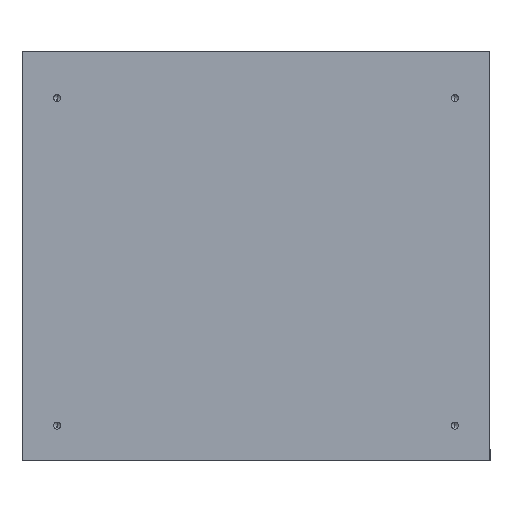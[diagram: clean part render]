
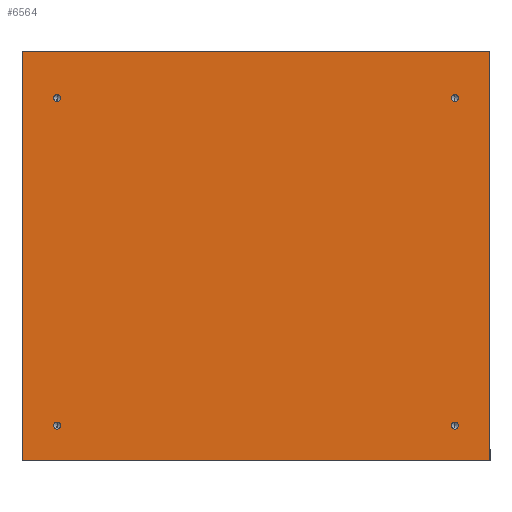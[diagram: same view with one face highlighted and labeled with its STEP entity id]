
A CAD part, front view. The second image highlights one B-rep face of the part: STEP entity #6564.
In plain terms, the highlighted planar face has unit normal (0, -1, 0).
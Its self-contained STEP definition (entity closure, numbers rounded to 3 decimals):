
#11 = ORIENTED_EDGE ( 'NONE', *, *, #5269, .F. ) ;
#37 = VERTEX_POINT ( 'NONE', #2953 ) ;
#155 = CIRCLE ( 'NONE', #3877, 3. ) ;
#158 = DIRECTION ( 'NONE',  ( 0., -1., 0. ) ) ;
#295 = LINE ( 'NONE', #5887, #4758 ) ;
#469 = ORIENTED_EDGE ( 'NONE', *, *, #6476, .F. ) ;
#519 = VERTEX_POINT ( 'NONE', #1395 ) ;
#545 = VERTEX_POINT ( 'NONE', #3409 ) ;
#665 = VERTEX_POINT ( 'NONE', #4602 ) ;
#686 = CIRCLE ( 'NONE', #3126, 3. ) ;
#770 = VERTEX_POINT ( 'NONE', #2228 ) ;
#917 = CARTESIAN_POINT ( 'NONE',  ( -170., 0., 135. ) ) ;
#980 = CARTESIAN_POINT ( 'NONE',  ( -170., 0., 135. ) ) ;
#1037 = CIRCLE ( 'NONE', #1463, 3. ) ;
#1060 = EDGE_CURVE ( 'NONE', #2785, #5393, #155, .T. ) ;
#1064 = CARTESIAN_POINT ( 'NONE',  ( -170., 0., -145. ) ) ;
#1085 = EDGE_CURVE ( 'NONE', #5393, #2785, #4407, .T. ) ;
#1195 = DIRECTION ( 'NONE',  ( 0., 0., 1. ) ) ;
#1384 = DIRECTION ( 'NONE',  ( 0., -1., 0. ) ) ;
#1395 = CARTESIAN_POINT ( 'NONE',  ( 170., 0., -148. ) ) ;
#1463 = AXIS2_PLACEMENT_3D ( 'NONE', #1064, #158, #5734 ) ;
#1525 = DIRECTION ( 'NONE',  ( 0., -1., 0. ) ) ;
#1740 = DIRECTION ( 'NONE',  ( 0., -1., 0. ) ) ;
#1743 = VERTEX_POINT ( 'NONE', #4492 ) ;
#1789 = EDGE_CURVE ( 'NONE', #2121, #770, #2145, .T. ) ;
#1970 = AXIS2_PLACEMENT_3D ( 'NONE', #917, #5035, #4009 ) ;
#2056 = CARTESIAN_POINT ( 'NONE',  ( -170., 0., -145. ) ) ;
#2121 = VERTEX_POINT ( 'NONE', #4960 ) ;
#2135 = ORIENTED_EDGE ( 'NONE', *, *, #5020, .F. ) ;
#2145 = LINE ( 'NONE', #3139, #4734 ) ;
#2222 = ORIENTED_EDGE ( 'NONE', *, *, #1789, .F. ) ;
#2228 = CARTESIAN_POINT ( 'NONE',  ( -200., 0., 175. ) ) ;
#2312 = VERTEX_POINT ( 'NONE', #5024 ) ;
#2550 = DIRECTION ( 'NONE',  ( 0., 0., -1. ) ) ;
#2624 = FACE_BOUND ( 'NONE', #5430, .T. ) ;
#2757 = DIRECTION ( 'NONE',  ( 0., -1., 0. ) ) ;
#2785 = VERTEX_POINT ( 'NONE', #4811 ) ;
#2834 = CIRCLE ( 'NONE', #6549, 3. ) ;
#2868 = EDGE_CURVE ( 'NONE', #545, #2121, #295, .T. ) ;
#2905 = CIRCLE ( 'NONE', #5141, 3. ) ;
#2915 = VECTOR ( 'NONE', #5346, 1000. ) ;
#2927 = VECTOR ( 'NONE', #4428, 1000. ) ;
#2953 = CARTESIAN_POINT ( 'NONE',  ( -170., 0., -142. ) ) ;
#2972 = DIRECTION ( 'NONE',  ( 0., -1., 0. ) ) ;
#3007 = ORIENTED_EDGE ( 'NONE', *, *, #2868, .F. ) ;
#3039 = ORIENTED_EDGE ( 'NONE', *, *, #3961, .F. ) ;
#3058 = DIRECTION ( 'NONE',  ( 0., 0., -1. ) ) ;
#3070 = CARTESIAN_POINT ( 'NONE',  ( -170., 0., 138. ) ) ;
#3126 = AXIS2_PLACEMENT_3D ( 'NONE', #5409, #2757, #5819 ) ;
#3139 = CARTESIAN_POINT ( 'NONE',  ( -200., 0., -175. ) ) ;
#3311 = CARTESIAN_POINT ( 'NONE',  ( 200., 0., -175. ) ) ;
#3362 = ORIENTED_EDGE ( 'NONE', *, *, #1060, .F. ) ;
#3409 = CARTESIAN_POINT ( 'NONE',  ( 200., 0., -175. ) ) ;
#3604 = CARTESIAN_POINT ( 'NONE',  ( 170., 0., 138. ) ) ;
#3649 = ORIENTED_EDGE ( 'NONE', *, *, #6283, .F. ) ;
#3688 = ORIENTED_EDGE ( 'NONE', *, *, #5697, .F. ) ;
#3764 = AXIS2_PLACEMENT_3D ( 'NONE', #2056, #1525, #3058 ) ;
#3877 = AXIS2_PLACEMENT_3D ( 'NONE', #980, #2972, #2550 ) ;
#3912 = VERTEX_POINT ( 'NONE', #4951 ) ;
#3961 = EDGE_CURVE ( 'NONE', #3912, #37, #1037, .T. ) ;
#4009 = DIRECTION ( 'NONE',  ( 0., 0., -1. ) ) ;
#4144 = ORIENTED_EDGE ( 'NONE', *, *, #6006, .F. ) ;
#4178 = FACE_OUTER_BOUND ( 'NONE', #4308, .T. ) ;
#4201 = EDGE_LOOP ( 'NONE', ( #3362, #4711 ) ) ;
#4221 = DIRECTION ( 'NONE',  ( 0., 1., 0. ) ) ;
#4237 = CARTESIAN_POINT ( 'NONE',  ( 170., 0., -145. ) ) ;
#4308 = EDGE_LOOP ( 'NONE', ( #469, #3688, #2222, #3007 ) ) ;
#4407 = CIRCLE ( 'NONE', #1970, 3. ) ;
#4428 = DIRECTION ( 'NONE',  ( 1., 0., 0. ) ) ;
#4492 = CARTESIAN_POINT ( 'NONE',  ( 170., 0., 132. ) ) ;
#4602 = CARTESIAN_POINT ( 'NONE',  ( 170., 0., -142. ) ) ;
#4643 = CARTESIAN_POINT ( 'NONE',  ( 0., 0., 0. ) ) ;
#4651 = AXIS2_PLACEMENT_3D ( 'NONE', #4643, #4221, #1195 ) ;
#4656 = EDGE_LOOP ( 'NONE', ( #4144, #11 ) ) ;
#4711 = ORIENTED_EDGE ( 'NONE', *, *, #1085, .F. ) ;
#4717 = ORIENTED_EDGE ( 'NONE', *, *, #5983, .F. ) ;
#4734 = VECTOR ( 'NONE', #5564, 1000. ) ;
#4745 = FACE_BOUND ( 'NONE', #6079, .T. ) ;
#4758 = VECTOR ( 'NONE', #5832, 1000. ) ;
#4811 = CARTESIAN_POINT ( 'NONE',  ( -170., 0., 132. ) ) ;
#4820 = AXIS2_PLACEMENT_3D ( 'NONE', #4237, #5768, #5841 ) ;
#4921 = VERTEX_POINT ( 'NONE', #3604 ) ;
#4951 = CARTESIAN_POINT ( 'NONE',  ( -170., 0., -148. ) ) ;
#4960 = CARTESIAN_POINT ( 'NONE',  ( -200., 0., -175. ) ) ;
#5020 = EDGE_CURVE ( 'NONE', #1743, #4921, #686, .T. ) ;
#5024 = CARTESIAN_POINT ( 'NONE',  ( 200., 0., 175. ) ) ;
#5035 = DIRECTION ( 'NONE',  ( 0., -1., 0. ) ) ;
#5141 = AXIS2_PLACEMENT_3D ( 'NONE', #5944, #1384, #6037 ) ;
#5142 = PLANE ( 'NONE',  #4651 ) ;
#5227 = DIRECTION ( 'NONE',  ( 0., 0., -1. ) ) ;
#5269 = EDGE_CURVE ( 'NONE', #665, #519, #2905, .T. ) ;
#5329 = CARTESIAN_POINT ( 'NONE',  ( 170., 0., 135. ) ) ;
#5346 = DIRECTION ( 'NONE',  ( 0., 0., -1. ) ) ;
#5393 = VERTEX_POINT ( 'NONE', #3070 ) ;
#5409 = CARTESIAN_POINT ( 'NONE',  ( 170., 0., 135. ) ) ;
#5430 = EDGE_LOOP ( 'NONE', ( #3039, #3649 ) ) ;
#5431 = LINE ( 'NONE', #5527, #2927 ) ;
#5527 = CARTESIAN_POINT ( 'NONE',  ( -200., 0., 175. ) ) ;
#5564 = DIRECTION ( 'NONE',  ( 0., 0., 1. ) ) ;
#5650 = FACE_BOUND ( 'NONE', #4656, .T. ) ;
#5679 = CIRCLE ( 'NONE', #3764, 3. ) ;
#5697 = EDGE_CURVE ( 'NONE', #770, #2312, #5431, .T. ) ;
#5734 = DIRECTION ( 'NONE',  ( 0., 0., -1. ) ) ;
#5768 = DIRECTION ( 'NONE',  ( 0., -1., 0. ) ) ;
#5819 = DIRECTION ( 'NONE',  ( 0., 0., -1. ) ) ;
#5832 = DIRECTION ( 'NONE',  ( -1., 0., 0. ) ) ;
#5841 = DIRECTION ( 'NONE',  ( 0., 0., -1. ) ) ;
#5887 = CARTESIAN_POINT ( 'NONE',  ( -200., 0., -175. ) ) ;
#5944 = CARTESIAN_POINT ( 'NONE',  ( 170., 0., -145. ) ) ;
#5983 = EDGE_CURVE ( 'NONE', #4921, #1743, #2834, .T. ) ;
#6006 = EDGE_CURVE ( 'NONE', #519, #665, #6424, .T. ) ;
#6037 = DIRECTION ( 'NONE',  ( 0., 0., -1. ) ) ;
#6079 = EDGE_LOOP ( 'NONE', ( #2135, #4717 ) ) ;
#6221 = FACE_BOUND ( 'NONE', #4201, .T. ) ;
#6283 = EDGE_CURVE ( 'NONE', #37, #3912, #5679, .T. ) ;
#6348 = LINE ( 'NONE', #3311, #2915 ) ;
#6424 = CIRCLE ( 'NONE', #4820, 3. ) ;
#6476 = EDGE_CURVE ( 'NONE', #2312, #545, #6348, .T. ) ;
#6549 = AXIS2_PLACEMENT_3D ( 'NONE', #5329, #1740, #5227 ) ;
#6564 = ADVANCED_FACE ( 'NONE', ( #6221, #4745, #5650, #2624, #4178 ), #5142, .F. ) ;
